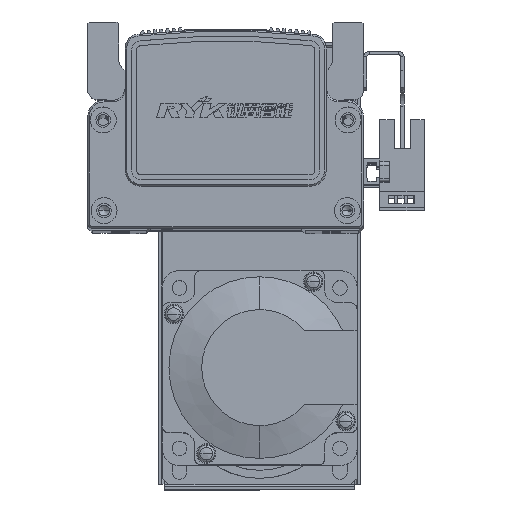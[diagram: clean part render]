
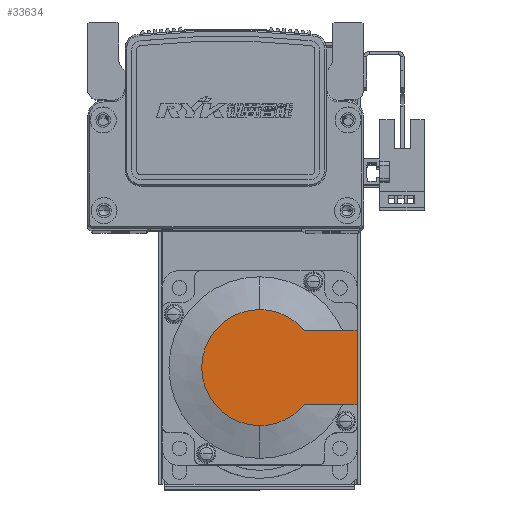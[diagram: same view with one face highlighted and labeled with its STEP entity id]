
A CAD part, top view. The second image highlights one B-rep face of the part: STEP entity #33634.
In plain terms, the highlighted planar face has unit normal (0, 0, 1) as drawn and (-1, 0, 0) by its records, which use the part's own axes.
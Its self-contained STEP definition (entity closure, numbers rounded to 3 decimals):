
#5102 = ORIENTED_EDGE ( 'NONE', *, *, #53961, .T. ) ;
#5103 = ORIENTED_EDGE ( 'NONE', *, *, #30610, .F. ) ;
#5116 = ORIENTED_EDGE ( 'NONE', *, *, #52745, .T. ) ;
#5124 = ORIENTED_EDGE ( 'NONE', *, *, #52720, .T. ) ;
#5134 = ORIENTED_EDGE ( 'NONE', *, *, #53955, .T. ) ;
#5146 = ORIENTED_EDGE ( 'NONE', *, *, #53989, .F. ) ;
#7157 = CARTESIAN_POINT ( 'NONE',  ( -99., 0., -17.881 ) ) ;
#7201 = CARTESIAN_POINT ( 'NONE',  ( -99., 0., 17.881 ) ) ;
#7215 = CARTESIAN_POINT ( 'NONE',  ( -99., 13.735, 11.45 ) ) ;
#15084 = VERTEX_POINT ( 'NONE', #28552 ) ;
#15106 = VERTEX_POINT ( 'NONE', #28675 ) ;
#15122 = VERTEX_POINT ( 'NONE', #28620 ) ;
#15900 = AXIS2_PLACEMENT_3D ( 'NONE', #54284, #54275, #54287 ) ;
#15916 = AXIS2_PLACEMENT_3D ( 'NONE', #54280, #54268, #54273 ) ;
#15959 = AXIS2_PLACEMENT_3D ( 'NONE', #56804, #56830, #56806 ) ;
#16525 = DIRECTION ( 'NONE',  ( 0., 0., 1. ) ) ;
#16526 = CARTESIAN_POINT ( 'NONE',  ( -99., -8.941, 0. ) ) ;
#16596 = PLANE ( 'NONE',  #22726 ) ;
#16597 = DIRECTION ( 'NONE',  ( -1., 0., 0. ) ) ;
#19052 = FACE_OUTER_BOUND ( 'NONE', #39653, .T. ) ;
#22080 = VERTEX_POINT ( 'NONE', #7157 ) ;
#22124 = VERTEX_POINT ( 'NONE', #7215 ) ;
#22151 = VERTEX_POINT ( 'NONE', #7201 ) ;
#22726 = AXIS2_PLACEMENT_3D ( 'NONE', #16526, #16597, #16525 ) ;
#24005 = CARTESIAN_POINT ( 'NONE',  ( -99., 30., 25. ) ) ;
#24050 = DIRECTION ( 'NONE',  ( 0., 0., 1. ) ) ;
#27567 = VECTOR ( 'NONE', #24050, 1000. ) ;
#27578 = LINE ( 'NONE', #24005, #27567 ) ;
#28552 = CARTESIAN_POINT ( 'NONE',  ( -99., 13.735, -11.45 ) ) ;
#28620 = CARTESIAN_POINT ( 'NONE',  ( -99., 30., 11.45 ) ) ;
#28675 = CARTESIAN_POINT ( 'NONE',  ( -99., 30., -11.45 ) ) ;
#30610 = EDGE_CURVE ( 'NONE', #15106, #15122, #27578, .T. ) ;
#33634 = ADVANCED_FACE ( 'NONE', ( #19052 ), #16596, .T. ) ;
#39653 = EDGE_LOOP ( 'NONE', ( #5102, #5134, #5124, #5116, #5146, #5103 ) ) ;
#52720 = EDGE_CURVE ( 'NONE', #22080, #22151, #54963, .T. ) ;
#52745 = EDGE_CURVE ( 'NONE', #22151, #22124, #54999, .T. ) ;
#53955 = EDGE_CURVE ( 'NONE', #15084, #22080, #55548, .T. ) ;
#53961 = EDGE_CURVE ( 'NONE', #15106, #15084, #55611, .T. ) ;
#53989 = EDGE_CURVE ( 'NONE', #15122, #22124, #55600, .T. ) ;
#54268 = DIRECTION ( 'NONE',  ( -1., 0., 0. ) ) ;
#54273 = DIRECTION ( 'NONE',  ( 0., 0., -1. ) ) ;
#54275 = DIRECTION ( 'NONE',  ( -1., 0., 0. ) ) ;
#54280 = CARTESIAN_POINT ( 'NONE',  ( -99., 0., 0. ) ) ;
#54284 = CARTESIAN_POINT ( 'NONE',  ( -99., 0., 0. ) ) ;
#54287 = DIRECTION ( 'NONE',  ( 0., 0., -1. ) ) ;
#54963 = CIRCLE ( 'NONE', #15900, 17.881 ) ;
#54999 = CIRCLE ( 'NONE', #15916, 17.881 ) ;
#55548 = CIRCLE ( 'NONE', #15959, 17.881 ) ;
#55595 = VECTOR ( 'NONE', #56898, 1000. ) ;
#55596 = VECTOR ( 'NONE', #56840, 1000. ) ;
#55600 = LINE ( 'NONE', #56888, #55595 ) ;
#55611 = LINE ( 'NONE', #56847, #55596 ) ;
#56804 = CARTESIAN_POINT ( 'NONE',  ( -99., 0., 0. ) ) ;
#56806 = DIRECTION ( 'NONE',  ( 0., 0., -1. ) ) ;
#56830 = DIRECTION ( 'NONE',  ( -1., 0., 0. ) ) ;
#56840 = DIRECTION ( 'NONE',  ( 0., -1., 0. ) ) ;
#56847 = CARTESIAN_POINT ( 'NONE',  ( -99., -8.941, -11.45 ) ) ;
#56888 = CARTESIAN_POINT ( 'NONE',  ( -99., 0., 11.45 ) ) ;
#56898 = DIRECTION ( 'NONE',  ( 0., -1., 0. ) ) ;
